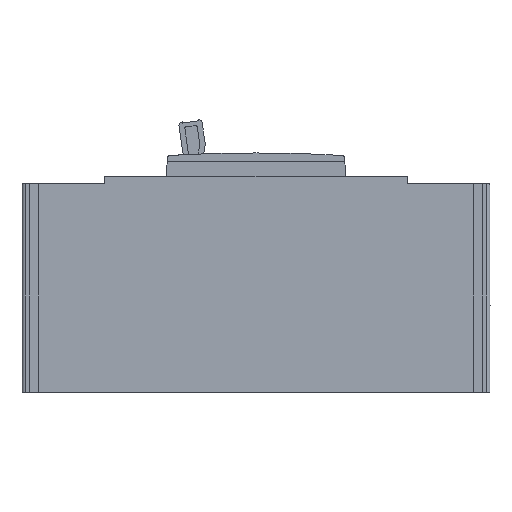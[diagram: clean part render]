
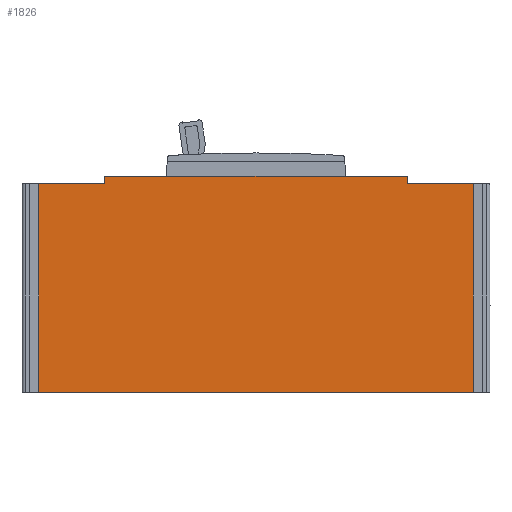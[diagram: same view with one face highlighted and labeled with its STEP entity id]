
A CAD part, left-side view. The second image highlights one B-rep face of the part: STEP entity #1826.
In plain terms, the highlighted planar face has unit normal (-1, 0, 0).
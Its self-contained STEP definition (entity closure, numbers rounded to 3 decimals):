
#80 = DIRECTION ( 'NONE',  ( 0., 0., 1. ) ) ;
#399 = CARTESIAN_POINT ( 'NONE',  ( -37.5, 0., 58. ) ) ;
#479 = VECTOR ( 'NONE', #5193, 1000. ) ;
#500 = DIRECTION ( 'NONE',  ( 0., -1., 0. ) ) ;
#535 = EDGE_CURVE ( 'NONE', #5801, #8451, #4400, .T. ) ;
#563 = ORIENTED_EDGE ( 'NONE', *, *, #1424, .T. ) ;
#1135 = VERTEX_POINT ( 'NONE', #7913 ) ;
#1188 = VERTEX_POINT ( 'NONE', #9683 ) ;
#1327 = LINE ( 'NONE', #1648, #7025 ) ;
#1338 = VECTOR ( 'NONE', #500, 1000. ) ;
#1344 = VECTOR ( 'NONE', #80, 1000. ) ;
#1424 = EDGE_CURVE ( 'NONE', #5801, #7754, #8623, .T. ) ;
#1648 = CARTESIAN_POINT ( 'NONE',  ( -37.5, 0., 58. ) ) ;
#1826 = ADVANCED_FACE ( 'NONE', ( #2028 ), #2052, .F. ) ;
#1888 = CARTESIAN_POINT ( 'NONE',  ( -37.5, 0., 0. ) ) ;
#1958 = VERTEX_POINT ( 'NONE', #8510 ) ;
#2028 = FACE_OUTER_BOUND ( 'NONE', #6792, .T. ) ;
#2052 = PLANE ( 'NONE',  #5460 ) ;
#2118 = VECTOR ( 'NONE', #7610, 1000. ) ;
#2298 = ORIENTED_EDGE ( 'NONE', *, *, #3709, .F. ) ;
#2343 = ORIENTED_EDGE ( 'NONE', *, *, #10223, .F. ) ;
#2629 = LINE ( 'NONE', #9348, #479 ) ;
#2769 = EDGE_CURVE ( 'NONE', #1135, #1188, #3486, .T. ) ;
#2917 = CARTESIAN_POINT ( 'NONE',  ( -37.5, 60.3, 0. ) ) ;
#3094 = CARTESIAN_POINT ( 'NONE',  ( -37.5, -42., 0. ) ) ;
#3172 = CARTESIAN_POINT ( 'NONE',  ( -37.5, -42., 60. ) ) ;
#3486 = LINE ( 'NONE', #4206, #1344 ) ;
#3708 = CARTESIAN_POINT ( 'NONE',  ( -37.5, 0., 0. ) ) ;
#3709 = EDGE_CURVE ( 'NONE', #3714, #1958, #9831, .T. ) ;
#3714 = VERTEX_POINT ( 'NONE', #3172 ) ;
#4091 = CARTESIAN_POINT ( 'NONE',  ( -37.5, 60.3, 0. ) ) ;
#4155 = CARTESIAN_POINT ( 'NONE',  ( -37.5, 60.3, 58. ) ) ;
#4206 = CARTESIAN_POINT ( 'NONE',  ( -37.5, 42., 0. ) ) ;
#4400 = LINE ( 'NONE', #2917, #8201 ) ;
#5148 = VERTEX_POINT ( 'NONE', #9165 ) ;
#5193 = DIRECTION ( 'NONE',  ( 0., -1., 0. ) ) ;
#5244 = DIRECTION ( 'NONE',  ( 0., 0., -1. ) ) ;
#5335 = DIRECTION ( 'NONE',  ( 0., 0., 1. ) ) ;
#5460 = AXIS2_PLACEMENT_3D ( 'NONE', #3708, #10045, #5244 ) ;
#5547 = DIRECTION ( 'NONE',  ( 0., 0., -1. ) ) ;
#5581 = ORIENTED_EDGE ( 'NONE', *, *, #8192, .F. ) ;
#5652 = DIRECTION ( 'NONE',  ( 0., -1., 0. ) ) ;
#5727 = ORIENTED_EDGE ( 'NONE', *, *, #7093, .T. ) ;
#5795 = ORIENTED_EDGE ( 'NONE', *, *, #2769, .F. ) ;
#5801 = VERTEX_POINT ( 'NONE', #4091 ) ;
#6000 = CARTESIAN_POINT ( 'NONE',  ( -37.5, -60.3, 0. ) ) ;
#6085 = ORIENTED_EDGE ( 'NONE', *, *, #535, .F. ) ;
#6214 = VECTOR ( 'NONE', #7556, 1000. ) ;
#6792 = EDGE_LOOP ( 'NONE', ( #5727, #9848, #2298, #5581, #5795, #2343, #6085, #563 ) ) ;
#7025 = VECTOR ( 'NONE', #5652, 1000. ) ;
#7093 = EDGE_CURVE ( 'NONE', #7754, #5148, #8586, .T. ) ;
#7556 = DIRECTION ( 'NONE',  ( 0., -1., 0. ) ) ;
#7610 = DIRECTION ( 'NONE',  ( 0., 0., 1. ) ) ;
#7754 = VERTEX_POINT ( 'NONE', #8068 ) ;
#7803 = LINE ( 'NONE', #399, #1338 ) ;
#7913 = CARTESIAN_POINT ( 'NONE',  ( -37.5, 42., 58. ) ) ;
#8068 = CARTESIAN_POINT ( 'NONE',  ( -37.5, -60.3, 0. ) ) ;
#8192 = EDGE_CURVE ( 'NONE', #1188, #3714, #2629, .T. ) ;
#8201 = VECTOR ( 'NONE', #5335, 1000. ) ;
#8239 = VECTOR ( 'NONE', #5547, 1000. ) ;
#8451 = VERTEX_POINT ( 'NONE', #4155 ) ;
#8510 = CARTESIAN_POINT ( 'NONE',  ( -37.5, -42., 58. ) ) ;
#8586 = LINE ( 'NONE', #6000, #2118 ) ;
#8623 = LINE ( 'NONE', #1888, #6214 ) ;
#9165 = CARTESIAN_POINT ( 'NONE',  ( -37.5, -60.3, 58. ) ) ;
#9348 = CARTESIAN_POINT ( 'NONE',  ( -37.5, 0., 60. ) ) ;
#9683 = CARTESIAN_POINT ( 'NONE',  ( -37.5, 42., 60. ) ) ;
#9831 = LINE ( 'NONE', #3094, #8239 ) ;
#9848 = ORIENTED_EDGE ( 'NONE', *, *, #9849, .F. ) ;
#9849 = EDGE_CURVE ( 'NONE', #1958, #5148, #7803, .T. ) ;
#10045 = DIRECTION ( 'NONE',  ( 1., 0., 0. ) ) ;
#10223 = EDGE_CURVE ( 'NONE', #8451, #1135, #1327, .T. ) ;
